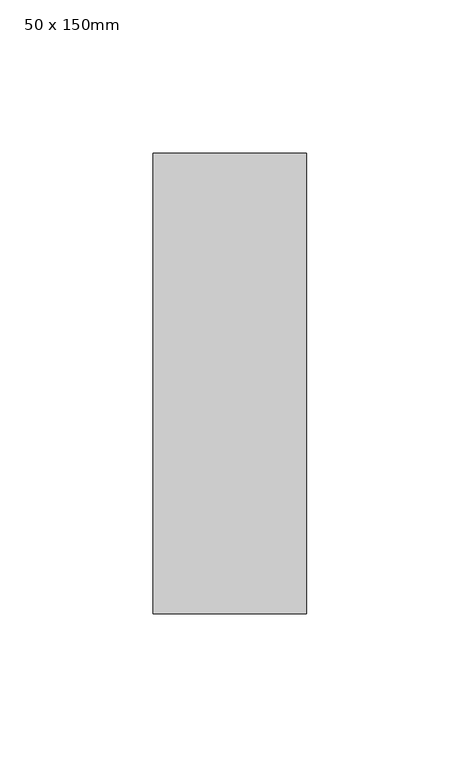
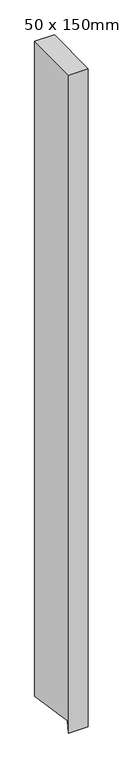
"""IFC4 building model written with IfcOpenShell, lengths in millimetres: member geometry, 矩形竖梃 : 50 x 150mm."""

from ifc_helpers import new_model, si_unit, frame, origin, place, context, project, spatial, polyline, outline, extrude, source, transform, mapped, element, save


def member_50_x_150mm_166bca5e(model_context):
    return source(origin(), model_context, "Body", "SweptSolid", [
        extrude(outline(polyline([(-75.0, 0.0), (75.0, 0.0), (75.0, -1765.574472), (-70.6553215, -1744.53417), (-75.0, -1774.6109981), (-75.0, 0.0)])), frame((-50.0, 0.0, 0.0), z_axis=(1.0, 0.0, 0.0), x_axis=(0.0, 1.0, 0.0)), (0.0, 0.0, 1.0), 50.0),
    ])


if __name__ == "__main__":
    model = new_model("IFC4")
    model_context = context("Model", 3, world=origin())
    ifc_project = project(units=[si_unit("LENGTHUNIT", "METRE", prefix="MILLI")], contexts=[model_context])
    site = spatial("IfcSite", under=ifc_project)
    building = spatial("IfcBuilding", under=site)
    placement = place(None, origin())
    member_50_x_150mm_shape = member_50_x_150mm_166bca5e(model_context)
    element("IfcMember", 1, ObjectType="矩形竖梃 : 50 x 150mm", at=placement, inside=building, context=model_context, shape_type="MappedRepresentation", body=[
        mapped(member_50_x_150mm_shape, transform((0.0, 0.0, 0.0), x_axis=(1.0, 0.0, 0.0), y_axis=(0.0, 1.0, 0.0), z_axis=(0.0, 0.0, 1.0))),
    ])
    save(model, "model.ifc")
